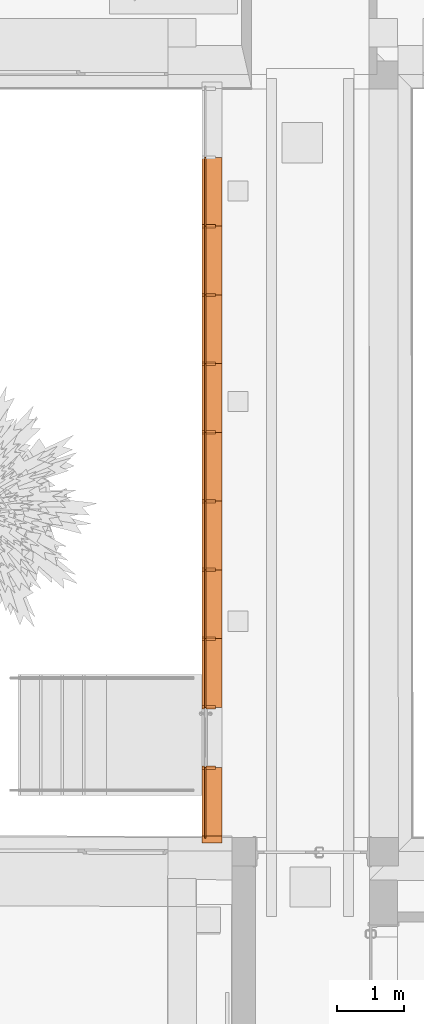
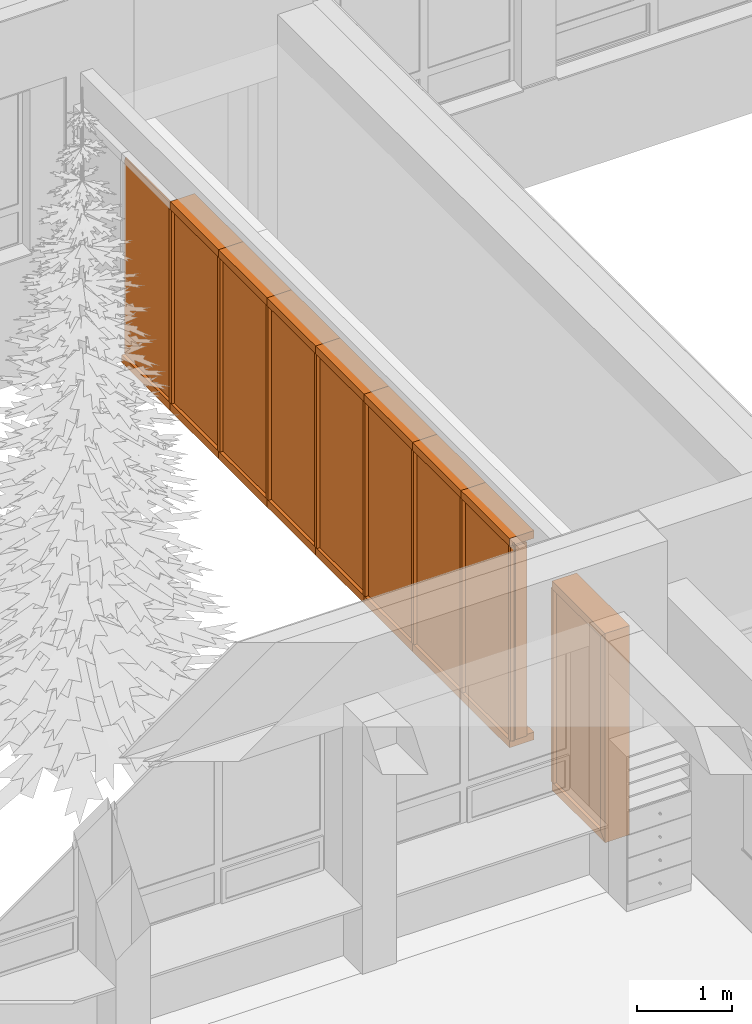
# One storey, part 187 of 194: 36 proxies, 1 element without a shape of its own.
"""IFC2X3 building model written with IfcOpenShell, lengths in millimetres."""

from ifc_helpers import new_model, entity, si_unit, converted_unit, derived_unit, money_unit, direction, frame, origin_with_axes, place, context, subcontext, project, spatial, polyline, outline, extrude, clip, halfspace, material, material_list, type_object, element, aggregate, save


model = new_model("IFC2X3")

# Units and contexts
model_context = context("Model", 3, precision=1e-05, world=origin_with_axes(), true_north=direction((0.0, 1.0)))
body_context = subcontext(model_context, "Body", "Model", "MODEL_VIEW")
ifc_project = project(units=[si_unit("LENGTHUNIT", "METRE", prefix="MILLI"), si_unit("AREAUNIT", "SQUARE_METRE"), si_unit("VOLUMEUNIT", "CUBIC_METRE"), converted_unit("PLANEANGLEUNIT", "DEGREE", entity("IfcPlaneAngleMeasure", 0.0174532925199), si_unit("PLANEANGLEUNIT", "RADIAN"), dimensions=[0, 0, 0, 0, 0, 0, 0]), si_unit("SOLIDANGLEUNIT", "STERADIAN"), money_unit("EUR"), converted_unit("TIMEUNIT", "Year", entity("IfcTimeMeasure", 31556926.0), si_unit("TIMEUNIT", "SECOND"), dimensions=[0, 0, 1, 0, 0, 0, 0]), si_unit("MASSUNIT", "GRAM", prefix="KILO"), si_unit("THERMODYNAMICTEMPERATUREUNIT", "DEGREE_CELSIUS"), si_unit("LUMINOUSINTENSITYUNIT", "LUMEN"), si_unit("ENERGYUNIT", "JOULE", prefix="MEGA"), derived_unit("THERMALCONDUCTANCEUNIT", [(si_unit("POWERUNIT", "WATT"), 1), (si_unit("LENGTHUNIT", "METRE"), -1), (si_unit("THERMODYNAMICTEMPERATUREUNIT", "KELVIN"), -1)]), derived_unit("SPECIFICHEATCAPACITYUNIT", [(si_unit("ENERGYUNIT", "JOULE"), 1), (si_unit("MASSUNIT", "GRAM", prefix="KILO"), -1), (si_unit("THERMODYNAMICTEMPERATUREUNIT", "KELVIN"), -1)]), derived_unit("MASSDENSITYUNIT", [(si_unit("MASSUNIT", "GRAM", prefix="KILO"), 1), (si_unit("VOLUMEUNIT", "CUBIC_METRE"), -1)])], contexts=[model_context])

# Site, building, storey
site_placement = place(None, origin_with_axes())
site = spatial("IfcSite", under=ifc_project, at=site_placement, Name="Site", CompositionType="ELEMENT")
building_placement = place(site_placement, origin_with_axes())
building = spatial("IfcBuilding", under=site, at=building_placement, Name="Building", CompositionType="ELEMENT")
storey_placement = place(building_placement, frame((0.0, 0.0, 3000.0), z_axis=(0.0, 0.0, 1.0), x_axis=(1.0, 0.0, 0.0)))
storey = spatial("IfcBuildingStorey", under=building, at=storey_placement, Name="2 KORRUS", CompositionType="ELEMENT", Elevation=3000.0)

# Curtain wall, proxies
curtain_wall_type = type_object("IfcCurtainWallType", Name="KS-2", PredefinedType="NOTDEFINED")
curtain_wall_placement = place(storey_placement, frame((37291.3079908, 33624.5964496, -0.000166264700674), z_axis=(0.0, 0.0, 1.0), x_axis=(1.0, 0.0, 0.0)))
curtain_wall = element("IfcCurtainWall", 1, at=curtain_wall_placement, inside=storey, type_object=curtain_wall_type, Name="KS")
ifc_material_1 = material(Name="Klaas (1)")
building_element_proxy_type_1 = type_object("IfcBuildingElementProxyType", Name="Panel-Main-403", PredefinedType="NOTDEFINED")
proxy_1_placement = place(curtain_wall_placement, frame((0.0, -8200.0, 1250.00017528), z_axis=(0.0, 0.0, 1.0), x_axis=(0.0, -1.0, 0.0)))
proxy_1 = element("IfcBuildingElementProxy", 2, at=proxy_1_placement, type_object=building_element_proxy_type_1, material=ifc_material_1, Name="Klaas (1);  Objekti nimi: Built-in CW Panel", context=body_context, shape_type="SweptSolid", body=[
    extrude(outline(polyline([(-512.500017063, -1280.00017528), (512.499994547, -1280.00017528), (512.499994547, -1250.0001807), (517.5, -1250.0001807), (517.5, 1250.0001807), (512.499994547, 1250.0001807), (512.499994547, 1280.00017528), (-512.500017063, 1280.00017528), (-512.500017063, 1250.0001807), (-517.499984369, 1250.0001807), (-517.499984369, -1250.0001807), (-512.500017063, -1250.0001807), (-512.500017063, -1280.00017528)])), frame((0.0, -9.99999999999, 0.0), z_axis=(0.0, 1.0, 0.0), x_axis=(1.0, 0.0, 0.0)), (0.0, 0.0, 1.0), 20.0),
])
building_element_proxy_type_2 = type_object("IfcBuildingElementProxyType", Name="Panel-Main-404", PredefinedType="NOTDEFINED")
proxy_2_placement = place(curtain_wall_placement, frame((0.0, -7175.0, 1250.00017528), z_axis=(0.0, 0.0, 1.0), x_axis=(0.0, -1.0, 0.0)))
proxy_2 = element("IfcBuildingElementProxy", 3, at=proxy_2_placement, type_object=building_element_proxy_type_2, material=ifc_material_1, Name="Klaas (1);  Objekti nimi: Built-in CW Panel", context=body_context, shape_type="SweptSolid", body=[
    extrude(outline(polyline([(-512.500017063, -1280.00017528), (512.499994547, -1280.00017528), (512.499994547, -1250.0001807), (517.5, -1250.0001807), (517.5, 1250.0001807), (512.499994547, 1250.0001807), (512.499994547, 1280.00017528), (-512.500017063, 1280.00017528), (-512.500017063, 1250.0001807), (-517.499984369, 1250.0001807), (-517.499984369, -1250.0001807), (-512.500017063, -1250.0001807), (-512.500017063, -1280.00017528)])), frame((0.0, -9.99999999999, 0.0), z_axis=(0.0, 1.0, 0.0), x_axis=(1.0, 0.0, 0.0)), (0.0, 0.0, 1.0), 20.0),
])
building_element_proxy_type_3 = type_object("IfcBuildingElementProxyType", Name="Panel-Main-405", PredefinedType="NOTDEFINED")
proxy_3_placement = place(curtain_wall_placement, frame((0.0, -6150.0, 1250.00017528), z_axis=(0.0, 0.0, 1.0), x_axis=(0.0, -1.0, 0.0)))
proxy_3 = element("IfcBuildingElementProxy", 4, at=proxy_3_placement, type_object=building_element_proxy_type_3, material=ifc_material_1, Name="Klaas (1);  Objekti nimi: Built-in CW Panel", context=body_context, shape_type="SweptSolid", body=[
    extrude(outline(polyline([(-512.500017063, -1280.00017528), (512.499994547, -1280.00017528), (512.499994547, -1250.0001807), (517.5, -1250.0001807), (517.5, 1250.0001807), (512.499994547, 1250.0001807), (512.499994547, 1280.00017528), (-512.500017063, 1280.00017528), (-512.500017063, 1250.0001807), (-517.499984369, 1250.0001807), (-517.499984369, -1250.0001807), (-512.500017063, -1250.0001807), (-512.500017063, -1280.00017528)])), frame((0.0, -9.99999999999, 0.0), z_axis=(0.0, 1.0, 0.0), x_axis=(1.0, 0.0, 0.0)), (0.0, 0.0, 1.0), 20.0),
])
building_element_proxy_type_4 = type_object("IfcBuildingElementProxyType", Name="Panel-Main-406", PredefinedType="NOTDEFINED")
proxy_4_placement = place(curtain_wall_placement, frame((0.0, -5125.0, 1250.00017528), z_axis=(0.0, 0.0, 1.0), x_axis=(0.0, -1.0, 0.0)))
proxy_4 = element("IfcBuildingElementProxy", 5, at=proxy_4_placement, type_object=building_element_proxy_type_4, material=ifc_material_1, Name="Klaas (1);  Objekti nimi: Built-in CW Panel", context=body_context, shape_type="SweptSolid", body=[
    extrude(outline(polyline([(-512.500017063, -1280.00017528), (512.499994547, -1280.00017528), (512.499994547, -1250.0001807), (517.5, -1250.0001807), (517.5, 1250.0001807), (512.499994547, 1250.0001807), (512.499994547, 1280.00017528), (-512.500017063, 1280.00017528), (-512.500017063, 1250.0001807), (-517.499984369, 1250.0001807), (-517.499984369, -1250.0001807), (-512.500017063, -1250.0001807), (-512.500017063, -1280.00017528)])), frame((0.0, -9.99999999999, 0.0), z_axis=(0.0, 1.0, 0.0), x_axis=(1.0, 0.0, 0.0)), (0.0, 0.0, 1.0), 20.0),
])
building_element_proxy_type_5 = type_object("IfcBuildingElementProxyType", Name="Panel-Main-407", PredefinedType="NOTDEFINED")
proxy_5_placement = place(curtain_wall_placement, frame((0.0, -4100.0, 1250.00017528), z_axis=(0.0, 0.0, 1.0), x_axis=(0.0, -1.0, 0.0)))
proxy_5 = element("IfcBuildingElementProxy", 6, at=proxy_5_placement, type_object=building_element_proxy_type_5, material=ifc_material_1, Name="Klaas (1);  Objekti nimi: Built-in CW Panel", context=body_context, shape_type="SweptSolid", body=[
    extrude(outline(polyline([(-512.500017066, -1280.00017528), (512.499994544, -1280.00017528), (512.499994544, -1250.0001807), (517.499999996, -1250.0001807), (517.499999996, 1250.0001807), (512.499994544, 1250.0001807), (512.499994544, 1280.00017528), (-512.500017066, 1280.00017528), (-512.500017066, 1250.0001807), (-517.499984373, 1250.0001807), (-517.499984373, -1250.0001807), (-512.500017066, -1250.0001807), (-512.500017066, -1280.00017528)])), frame((0.0, -9.99999999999, 0.0), z_axis=(0.0, 1.0, 0.0), x_axis=(1.0, 0.0, 0.0)), (0.0, 0.0, 1.0), 20.0),
])
building_element_proxy_type_6 = type_object("IfcBuildingElementProxyType", Name="Panel-Main-408", PredefinedType="NOTDEFINED")
proxy_6_placement = place(curtain_wall_placement, frame((0.0, -3075.0, 1250.00017528), z_axis=(0.0, 0.0, 1.0), x_axis=(0.0, -1.0, 0.0)))
proxy_6 = element("IfcBuildingElementProxy", 7, at=proxy_6_placement, type_object=building_element_proxy_type_6, material=ifc_material_1, Name="Klaas (1);  Objekti nimi: Built-in CW Panel", context=body_context, shape_type="SweptSolid", body=[
    extrude(outline(polyline([(-512.500017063, -1280.00017528), (512.499994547, -1280.00017528), (512.499994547, -1250.0001807), (517.5, -1250.0001807), (517.5, 1250.0001807), (512.499994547, 1250.0001807), (512.499994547, 1280.00017528), (-512.500017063, 1280.00017528), (-512.500017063, 1250.0001807), (-517.499984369, 1250.0001807), (-517.499984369, -1250.0001807), (-512.500017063, -1250.0001807), (-512.500017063, -1280.00017528)])), frame((0.0, -9.99999999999, 0.0), z_axis=(0.0, 1.0, 0.0), x_axis=(1.0, 0.0, 0.0)), (0.0, 0.0, 1.0), 20.0),
])
building_element_proxy_type_7 = type_object("IfcBuildingElementProxyType", Name="Panel-Main-409", PredefinedType="NOTDEFINED")
proxy_7_placement = place(curtain_wall_placement, frame((0.0, -2050.0, 1250.00017528), z_axis=(0.0, 0.0, 1.0), x_axis=(0.0, -1.0, 0.0)))
proxy_7 = element("IfcBuildingElementProxy", 8, at=proxy_7_placement, type_object=building_element_proxy_type_7, material=ifc_material_1, Name="Klaas (1);  Objekti nimi: Built-in CW Panel", context=body_context, shape_type="SweptSolid", body=[
    extrude(outline(polyline([(-512.500017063, -1280.00017528), (512.499994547, -1280.00017528), (512.499994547, -1250.0001807), (517.5, -1250.0001807), (517.5, 1250.0001807), (512.499994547, 1250.0001807), (512.499994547, 1280.00017528), (-512.500017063, 1280.00017528), (-512.500017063, 1250.0001807), (-517.499984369, 1250.0001807), (-517.499984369, -1250.0001807), (-512.500017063, -1250.0001807), (-512.500017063, -1280.00017528)])), frame((0.0, -9.99999999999, 0.0), z_axis=(0.0, 1.0, 0.0), x_axis=(1.0, 0.0, 0.0)), (0.0, 0.0, 1.0), 20.0),
])
building_element_proxy_type_8 = type_object("IfcBuildingElementProxyType", Name="Panel-Main-410", PredefinedType="NOTDEFINED")
proxy_8_placement = place(curtain_wall_placement, frame((0.0, -1025.0, 1250.00017528), z_axis=(0.0, 0.0, 1.0), x_axis=(0.0, -1.0, 0.0)))
proxy_8 = element("IfcBuildingElementProxy", 9, at=proxy_8_placement, type_object=building_element_proxy_type_8, material=ifc_material_1, Name="Klaas (1);  Objekti nimi: Built-in CW Panel", context=body_context, shape_type="SweptSolid", body=[
    extrude(outline(polyline([(-512.500017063, -1280.00017528), (512.499994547, -1280.00017528), (512.499994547, -1250.0001807), (517.5, -1250.0001807), (517.5, 1250.0001807), (512.499994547, 1250.0001807), (512.499994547, 1280.00017528), (-512.500017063, 1280.00017528), (-512.500017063, 1250.0001807), (-517.499984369, 1250.0001807), (-517.499984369, -1250.0001807), (-512.500017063, -1250.0001807), (-512.500017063, -1280.00017528)])), frame((0.0, -9.99999999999, 0.0), z_axis=(0.0, 1.0, 0.0), x_axis=(1.0, 0.0, 0.0)), (0.0, 0.0, 1.0), 20.0),
])
building_element_proxy_type_9 = type_object("IfcBuildingElementProxyType", Name="Panel-Main-411", PredefinedType="NOTDEFINED")
proxy_9_placement = place(curtain_wall_placement, frame((0.0, -10122.9794885, 1250.00017528), z_axis=(0.0, 0.0, 1.0), x_axis=(0.0, -1.0, 0.0)))
proxy_9 = element("IfcBuildingElementProxy", 10, at=proxy_9_placement, type_object=building_element_proxy_type_9, material=ifc_material_1, Name="Klaas (1);  Objekti nimi: Built-in CW Panel", context=body_context, shape_type="SweptSolid", body=[
    extrude(outline(polyline([(-510.479451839, -1280.00017528), (510.479493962, -1280.00017528), (510.479493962, -1250.0001807), (540.479488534, -1250.0001807), (540.479488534, 1250.0001807), (510.479493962, 1250.0001807), (510.479493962, 1280.00017528), (-510.479489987, 1280.00017528), (-510.479451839, 1250.0001807), (-515.479457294, 1250.0001807), (-515.479457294, -1250.0001807), (-510.479451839, -1250.0001807), (-510.479451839, -1280.00017528)])), frame((0.0, -9.99999999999, 0.0), z_axis=(0.0, 1.0, 0.0), x_axis=(1.0, 0.0, 0.0)), (0.0, 0.0, 1.0), 20.0),
])
ifc_material_2 = material(Name="Alumiinium (1)")
ifc_material_list = material_list([ifc_material_2, ifc_material_2])
building_element_proxy_type_10 = type_object("IfcBuildingElementProxyType", Name="Frame-Mll-588", PredefinedType="NOTDEFINED")
proxy_10_placement = place(curtain_wall_placement, frame((0.0, -9612.5, 0.0), z_axis=(0.0, 0.0, 1.0), x_axis=(0.0, -1.0, 0.0)))
proxy_10 = element("IfcBuildingElementProxy", 11, at=proxy_10_placement, type_object=building_element_proxy_type_10, material=ifc_material_list, Name="Alumiinium (1);  Objekti nimi: Frame 22", context=body_context, shape_type="SweptSolid", body=[
    extrude(outline(polyline([(9.99999999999, -24.9999999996), (150.0, -24.9999999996), (150.0, 24.9999999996), (9.99999999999, 24.9999999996), (9.99999999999, -24.9999999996)])), frame((0.0, 0.0, 0.0), z_axis=(0.0, 0.0, 1.0), x_axis=(0.0, 1.0, 0.0)), (0.0, 0.0, 1.0), 2500.00035055),
    extrude(outline(polyline([(-9.99999999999, 24.9999999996), (-50.0, 24.9999999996), (-50.0, -24.9999999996), (-9.99999999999, -24.9999999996), (-9.99999999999, 24.9999999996)])), frame((0.0, 0.0, 0.0), z_axis=(0.0, 0.0, 1.0), x_axis=(0.0, 1.0, 0.0)), (0.0, 0.0, 1.0), 2500.00035055),
])
proxy_11_placement = place(curtain_wall_placement, frame((0.0, -8712.50000001, 0.0), z_axis=(0.0, 0.0, 1.0), x_axis=(0.0, -1.0, 0.0)))
proxy_11 = element("IfcBuildingElementProxy", 12, at=proxy_11_placement, type_object=building_element_proxy_type_10, material=ifc_material_list, Name="Alumiinium (1);  Objekti nimi: Frame 22", context=body_context, shape_type="SweptSolid", body=[
    extrude(outline(polyline([(9.99999999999, -24.9999999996), (150.0, -24.9999999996), (150.0, 24.9999999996), (9.99999999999, 24.9999999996), (9.99999999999, -24.9999999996)])), frame((0.0, 0.0, 0.0), z_axis=(0.0, 0.0, 1.0), x_axis=(0.0, 1.0, 0.0)), (0.0, 0.0, 1.0), 2500.00035055),
    extrude(outline(polyline([(-9.99999999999, 24.9999999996), (-50.0, 24.9999999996), (-50.0, -24.9999999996), (-9.99999999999, -24.9999999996), (-9.99999999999, 24.9999999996)])), frame((0.0, 0.0, 0.0), z_axis=(0.0, 0.0, 1.0), x_axis=(0.0, 1.0, 0.0)), (0.0, 0.0, 1.0), 2500.00035055),
])
proxy_12_placement = place(curtain_wall_placement, frame((0.0, -7687.5, 0.0), z_axis=(0.0, 0.0, 1.0), x_axis=(0.0, -1.0, 0.0)))
proxy_12 = element("IfcBuildingElementProxy", 13, at=proxy_12_placement, type_object=building_element_proxy_type_10, material=ifc_material_list, Name="Alumiinium (1);  Objekti nimi: Frame 22", context=body_context, shape_type="SweptSolid", body=[
    extrude(outline(polyline([(9.99999999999, -24.9999999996), (150.0, -24.9999999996), (150.0, 24.9999999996), (9.99999999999, 24.9999999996), (9.99999999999, -24.9999999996)])), frame((0.0, 0.0, 0.0), z_axis=(0.0, 0.0, 1.0), x_axis=(0.0, 1.0, 0.0)), (0.0, 0.0, 1.0), 2500.00035055),
    extrude(outline(polyline([(-9.99999999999, 24.9999999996), (-50.0, 24.9999999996), (-50.0, -24.9999999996), (-9.99999999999, -24.9999999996), (-9.99999999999, 24.9999999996)])), frame((0.0, 0.0, 0.0), z_axis=(0.0, 0.0, 1.0), x_axis=(0.0, 1.0, 0.0)), (0.0, 0.0, 1.0), 2500.00035055),
])
proxy_13_placement = place(curtain_wall_placement, frame((0.0, -6662.5, 0.0), z_axis=(0.0, 0.0, 1.0), x_axis=(0.0, -1.0, 0.0)))
proxy_13 = element("IfcBuildingElementProxy", 14, at=proxy_13_placement, type_object=building_element_proxy_type_10, material=ifc_material_list, Name="Alumiinium (1);  Objekti nimi: Frame 22", context=body_context, shape_type="SweptSolid", body=[
    extrude(outline(polyline([(9.99999999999, -24.9999999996), (150.0, -24.9999999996), (150.0, 24.9999999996), (9.99999999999, 24.9999999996), (9.99999999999, -24.9999999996)])), frame((0.0, 0.0, 0.0), z_axis=(0.0, 0.0, 1.0), x_axis=(0.0, 1.0, 0.0)), (0.0, 0.0, 1.0), 2500.00035055),
    extrude(outline(polyline([(-9.99999999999, 24.9999999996), (-50.0, 24.9999999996), (-50.0, -24.9999999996), (-9.99999999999, -24.9999999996), (-9.99999999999, 24.9999999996)])), frame((0.0, 0.0, 0.0), z_axis=(0.0, 0.0, 1.0), x_axis=(0.0, 1.0, 0.0)), (0.0, 0.0, 1.0), 2500.00035055),
])
proxy_14_placement = place(curtain_wall_placement, frame((0.0, -5637.5, 0.0), z_axis=(0.0, 0.0, 1.0), x_axis=(0.0, -1.0, 0.0)))
proxy_14 = element("IfcBuildingElementProxy", 15, at=proxy_14_placement, type_object=building_element_proxy_type_10, material=ifc_material_list, Name="Alumiinium (1);  Objekti nimi: Frame 22", context=body_context, shape_type="SweptSolid", body=[
    extrude(outline(polyline([(9.99999999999, -24.9999999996), (150.0, -24.9999999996), (150.0, 24.9999999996), (9.99999999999, 24.9999999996), (9.99999999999, -24.9999999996)])), frame((0.0, 0.0, 0.0), z_axis=(0.0, 0.0, 1.0), x_axis=(0.0, 1.0, 0.0)), (0.0, 0.0, 1.0), 2500.00035055),
    extrude(outline(polyline([(-9.99999999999, 24.9999999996), (-50.0, 24.9999999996), (-50.0, -24.9999999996), (-9.99999999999, -24.9999999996), (-9.99999999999, 24.9999999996)])), frame((0.0, 0.0, 0.0), z_axis=(0.0, 0.0, 1.0), x_axis=(0.0, 1.0, 0.0)), (0.0, 0.0, 1.0), 2500.00035055),
])
proxy_15_placement = place(curtain_wall_placement, frame((0.0, -4612.5, 0.0), z_axis=(0.0, 0.0, 1.0), x_axis=(0.0, -1.0, 0.0)))
proxy_15 = element("IfcBuildingElementProxy", 16, at=proxy_15_placement, type_object=building_element_proxy_type_10, material=ifc_material_list, Name="Alumiinium (1);  Objekti nimi: Frame 22", context=body_context, shape_type="SweptSolid", body=[
    extrude(outline(polyline([(9.99999999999, -24.9999999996), (150.0, -24.9999999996), (150.0, 24.9999999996), (9.99999999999, 24.9999999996), (9.99999999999, -24.9999999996)])), frame((0.0, 0.0, 0.0), z_axis=(0.0, 0.0, 1.0), x_axis=(0.0, 1.0, 0.0)), (0.0, 0.0, 1.0), 2500.00035055),
    extrude(outline(polyline([(-9.99999999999, 24.9999999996), (-50.0, 24.9999999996), (-50.0, -24.9999999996), (-9.99999999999, -24.9999999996), (-9.99999999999, 24.9999999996)])), frame((0.0, 0.0, 0.0), z_axis=(0.0, 0.0, 1.0), x_axis=(0.0, 1.0, 0.0)), (0.0, 0.0, 1.0), 2500.00035055),
])
proxy_16_placement = place(curtain_wall_placement, frame((0.0, -3587.50000001, 0.0), z_axis=(0.0, 0.0, 1.0), x_axis=(0.0, -1.0, 0.0)))
proxy_16 = element("IfcBuildingElementProxy", 17, at=proxy_16_placement, type_object=building_element_proxy_type_10, material=ifc_material_list, Name="Alumiinium (1);  Objekti nimi: Frame 22", context=body_context, shape_type="SweptSolid", body=[
    extrude(outline(polyline([(9.99999999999, -24.9999999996), (150.0, -24.9999999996), (150.0, 24.9999999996), (9.99999999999, 24.9999999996), (9.99999999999, -24.9999999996)])), frame((0.0, 0.0, 0.0), z_axis=(0.0, 0.0, 1.0), x_axis=(0.0, 1.0, 0.0)), (0.0, 0.0, 1.0), 2500.00035055),
    extrude(outline(polyline([(-9.99999999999, 24.9999999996), (-50.0, 24.9999999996), (-50.0, -24.9999999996), (-9.99999999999, -24.9999999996), (-9.99999999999, 24.9999999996)])), frame((0.0, 0.0, 0.0), z_axis=(0.0, 0.0, 1.0), x_axis=(0.0, 1.0, 0.0)), (0.0, 0.0, 1.0), 2500.00035055),
])
proxy_17_placement = place(curtain_wall_placement, frame((0.0, -2562.5, 0.0), z_axis=(0.0, 0.0, 1.0), x_axis=(0.0, -1.0, 0.0)))
proxy_17 = element("IfcBuildingElementProxy", 18, at=proxy_17_placement, type_object=building_element_proxy_type_10, material=ifc_material_list, Name="Alumiinium (1);  Objekti nimi: Frame 22", context=body_context, shape_type="SweptSolid", body=[
    extrude(outline(polyline([(9.99999999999, -24.9999999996), (150.0, -24.9999999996), (150.0, 24.9999999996), (9.99999999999, 24.9999999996), (9.99999999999, -24.9999999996)])), frame((0.0, 0.0, 0.0), z_axis=(0.0, 0.0, 1.0), x_axis=(0.0, 1.0, 0.0)), (0.0, 0.0, 1.0), 2500.00035055),
    extrude(outline(polyline([(-9.99999999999, 24.9999999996), (-50.0, 24.9999999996), (-50.0, -24.9999999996), (-9.99999999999, -24.9999999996), (-9.99999999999, 24.9999999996)])), frame((0.0, 0.0, 0.0), z_axis=(0.0, 0.0, 1.0), x_axis=(0.0, 1.0, 0.0)), (0.0, 0.0, 1.0), 2500.00035055),
])
proxy_18_placement = place(curtain_wall_placement, frame((0.0, -1537.5, 0.0), z_axis=(0.0, 0.0, 1.0), x_axis=(0.0, -1.0, 0.0)))
proxy_18 = element("IfcBuildingElementProxy", 19, at=proxy_18_placement, type_object=building_element_proxy_type_10, material=ifc_material_list, Name="Alumiinium (1);  Objekti nimi: Frame 22", context=body_context, shape_type="SweptSolid", body=[
    extrude(outline(polyline([(9.99999999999, -24.9999999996), (150.0, -24.9999999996), (150.0, 24.9999999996), (9.99999999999, 24.9999999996), (9.99999999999, -24.9999999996)])), frame((0.0, 0.0, 0.0), z_axis=(0.0, 0.0, 1.0), x_axis=(0.0, 1.0, 0.0)), (0.0, 0.0, 1.0), 2500.00035055),
    extrude(outline(polyline([(-9.99999999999, 24.9999999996), (-50.0, 24.9999999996), (-50.0, -24.9999999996), (-9.99999999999, -24.9999999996), (-9.99999999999, 24.9999999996)])), frame((0.0, 0.0, 0.0), z_axis=(0.0, 0.0, 1.0), x_axis=(0.0, 1.0, 0.0)), (0.0, 0.0, 1.0), 2500.00035055),
])
building_element_proxy_type_11 = type_object("IfcBuildingElementProxyType", Name="Frame-Bnd-310", PredefinedType="NOTDEFINED")
proxy_19_placement = place(curtain_wall_placement, frame((0.0, -8712.50000001, 0.0), z_axis=(0.0, 1.0, 0.0), x_axis=(0.0, 0.0, 1.0)))
proxy_19 = element("IfcBuildingElementProxy", 20, at=proxy_19_placement, type_object=building_element_proxy_type_11, material=ifc_material_2, Name="Alumiinium (1);  Objekti nimi: Built-in Frame", context=body_context, shape_type="SweptSolid", body=[
    extrude(outline(polyline([(9.99999999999, 30.0), (9.99999999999, 0.0), (250.0, 0.0), (250.0, 100.0), (-50.0, 100.0), (-50.0, 0.0), (-9.99999999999, 0.0), (-9.99999999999, 30.0), (9.99999999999, 30.0)])), frame((0.0, 0.0, 0.0), z_axis=(0.0, 0.0, 1.0), x_axis=(0.0, 1.0, 0.0)), (0.0, 0.0, 1.0), 1025.0),
])
building_element_proxy_type_12 = type_object("IfcBuildingElementProxyType", Name="Frame-Bnd-311", PredefinedType="NOTDEFINED")
proxy_20_placement = place(curtain_wall_placement, frame((0.0, -7687.5, 0.0), z_axis=(0.0, 1.0, 0.0), x_axis=(0.0, 0.0, 1.0)))
proxy_20 = element("IfcBuildingElementProxy", 21, at=proxy_20_placement, type_object=building_element_proxy_type_12, material=ifc_material_2, Name="Alumiinium (1);  Objekti nimi: Built-in Frame", context=body_context, shape_type="SweptSolid", body=[
    extrude(outline(polyline([(9.99999999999, 30.0), (9.99999999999, 0.0), (250.0, 0.0), (250.0, 100.0), (-50.0, 100.0), (-50.0, 0.0), (-9.99999999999, 0.0), (-9.99999999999, 30.0), (9.99999999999, 30.0)])), frame((0.0, 0.0, 0.0), z_axis=(0.0, 0.0, 1.0), x_axis=(0.0, 1.0, 0.0)), (0.0, 0.0, 1.0), 1025.0),
])
building_element_proxy_type_13 = type_object("IfcBuildingElementProxyType", Name="Frame-Bnd-312", PredefinedType="NOTDEFINED")
proxy_21_placement = place(curtain_wall_placement, frame((0.0, -6662.5, 0.0), z_axis=(0.0, 1.0, 0.0), x_axis=(0.0, 0.0, 1.0)))
proxy_21 = element("IfcBuildingElementProxy", 22, at=proxy_21_placement, type_object=building_element_proxy_type_13, material=ifc_material_2, Name="Alumiinium (1);  Objekti nimi: Built-in Frame", context=body_context, shape_type="SweptSolid", body=[
    extrude(outline(polyline([(9.99999999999, 30.0), (9.99999999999, 0.0), (250.0, 0.0), (250.0, 100.0), (-50.0, 100.0), (-50.0, 0.0), (-9.99999999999, 0.0), (-9.99999999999, 30.0), (9.99999999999, 30.0)])), frame((0.0, 0.0, 0.0), z_axis=(0.0, 0.0, 1.0), x_axis=(0.0, 1.0, 0.0)), (0.0, 0.0, 1.0), 1025.0),
])
building_element_proxy_type_14 = type_object("IfcBuildingElementProxyType", Name="Frame-Bnd-313", PredefinedType="NOTDEFINED")
proxy_22_placement = place(curtain_wall_placement, frame((0.0, -5637.5, 0.0), z_axis=(0.0, 1.0, 0.0), x_axis=(0.0, 0.0, 1.0)))
proxy_22 = element("IfcBuildingElementProxy", 23, at=proxy_22_placement, type_object=building_element_proxy_type_14, material=ifc_material_2, Name="Alumiinium (1);  Objekti nimi: Built-in Frame", context=body_context, shape_type="SweptSolid", body=[
    extrude(outline(polyline([(9.99999999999, 30.0), (9.99999999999, 0.0), (250.0, 0.0), (250.0, 100.0), (-50.0, 100.0), (-50.0, 0.0), (-9.99999999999, 0.0), (-9.99999999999, 30.0), (9.99999999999, 30.0)])), frame((0.0, 0.0, 0.0), z_axis=(0.0, 0.0, 1.0), x_axis=(0.0, 1.0, 0.0)), (0.0, 0.0, 1.0), 1025.0),
])
building_element_proxy_type_15 = type_object("IfcBuildingElementProxyType", Name="Frame-Bnd-314", PredefinedType="NOTDEFINED")
proxy_23_placement = place(curtain_wall_placement, frame((0.0, -4612.5, 0.0), z_axis=(0.0, 1.0, 0.0), x_axis=(0.0, 0.0, 1.0)))
proxy_23 = element("IfcBuildingElementProxy", 24, at=proxy_23_placement, type_object=building_element_proxy_type_15, material=ifc_material_2, Name="Alumiinium (1);  Objekti nimi: Built-in Frame", context=body_context, shape_type="SweptSolid", body=[
    extrude(outline(polyline([(9.99999999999, 30.0), (9.99999999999, 0.0), (250.0, 0.0), (250.0, 100.0), (-50.0, 100.0), (-50.0, 0.0), (-9.99999999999, 0.0), (-9.99999999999, 30.0), (9.99999999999, 30.0)])), frame((0.0, 0.0, 0.0), z_axis=(0.0, 0.0, 1.0), x_axis=(0.0, 1.0, 0.0)), (0.0, 0.0, 1.0), 1025.0),
])
building_element_proxy_type_16 = type_object("IfcBuildingElementProxyType", Name="Frame-Bnd-315", PredefinedType="NOTDEFINED")
proxy_24_placement = place(curtain_wall_placement, frame((0.0, -3587.50000001, 0.0), z_axis=(0.0, 1.0, 0.0), x_axis=(0.0, 0.0, 1.0)))
proxy_24 = element("IfcBuildingElementProxy", 25, at=proxy_24_placement, type_object=building_element_proxy_type_16, material=ifc_material_2, Name="Alumiinium (1);  Objekti nimi: Built-in Frame", context=body_context, shape_type="SweptSolid", body=[
    extrude(outline(polyline([(9.99999999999, 30.0), (9.99999999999, 0.0), (250.0, 0.0), (250.0, 100.0), (-50.0, 100.0), (-50.0, 0.0), (-9.99999999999, 0.0), (-9.99999999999, 30.0), (9.99999999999, 30.0)])), frame((0.0, 0.0, 0.0), z_axis=(0.0, 0.0, 1.0), x_axis=(0.0, 1.0, 0.0)), (0.0, 0.0, 1.0), 1025.0),
])
building_element_proxy_type_17 = type_object("IfcBuildingElementProxyType", Name="Frame-Bnd-316", PredefinedType="NOTDEFINED")
proxy_25_placement = place(curtain_wall_placement, frame((0.0, -2562.5, 0.0), z_axis=(0.0, 1.0, 0.0), x_axis=(0.0, 0.0, 1.0)))
proxy_25 = element("IfcBuildingElementProxy", 26, at=proxy_25_placement, type_object=building_element_proxy_type_17, material=ifc_material_2, Name="Alumiinium (1);  Objekti nimi: Built-in Frame", context=body_context, shape_type="SweptSolid", body=[
    extrude(outline(polyline([(9.99999999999, 30.0), (9.99999999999, 0.0), (250.0, 0.0), (250.0, 100.0), (-50.0, 100.0), (-50.0, 0.0), (-9.99999999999, 0.0), (-9.99999999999, 30.0), (9.99999999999, 30.0)])), frame((0.0, 0.0, 0.0), z_axis=(0.0, 0.0, 1.0), x_axis=(0.0, 1.0, 0.0)), (0.0, 0.0, 1.0), 1025.0),
])
building_element_proxy_type_18 = type_object("IfcBuildingElementProxyType", Name="Frame-Bnd-317", PredefinedType="NOTDEFINED")
proxy_26_placement = place(curtain_wall_placement, frame((0.0, -1537.5, 0.0), z_axis=(0.0, 1.0, 0.0), x_axis=(0.0, 0.0, 1.0)))
proxy_26 = element("IfcBuildingElementProxy", 27, at=proxy_26_placement, type_object=building_element_proxy_type_18, material=ifc_material_2, Name="Alumiinium (1);  Objekti nimi: Built-in Frame", context=body_context, shape_type="SweptSolid", body=[
    extrude(outline(polyline([(9.99999999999, 30.0), (9.99999999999, 0.0), (250.0, 0.0), (250.0, 100.0), (-50.0, 100.0), (-50.0, 0.0), (-9.99999999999, 0.0), (-9.99999999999, 30.0), (9.99999999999, 30.0)])), frame((0.0, 0.0, 0.0), z_axis=(0.0, 0.0, 1.0), x_axis=(0.0, 1.0, 0.0)), (0.0, 0.0, 1.0), 1025.0),
])
building_element_proxy_type_19 = type_object("IfcBuildingElementProxyType", Name="Frame-Bnd-306", PredefinedType="NOTDEFINED")
proxy_27_placement = place(curtain_wall_placement, frame((0.0, -10633.4589771, 2500.00035055), z_axis=(0.0, 1.0, 0.0), x_axis=(0.0, 0.0, 1.0)))
proxy_27 = element("IfcBuildingElementProxy", 28, at=proxy_27_placement, type_object=building_element_proxy_type_19, material=ifc_material_2, Name="Alumiinium (1);  Objekti nimi: Built-in Frame", context=body_context, shape_type="Clipping", body=[
    clip(extrude(outline(polyline([(9.99999999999, -30.0), (-9.99999999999, -30.0), (-9.99999999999, 0.0), (-50.0, 0.0), (-50.0, -100.0), (250.0, -100.0), (250.0, 0.0), (9.99999999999, 0.0), (9.99999999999, -30.0)])), frame((0.0, 0.0, -100.0), z_axis=(0.0, 0.0, 1.0), x_axis=(0.0, 1.0, 0.0)), (0.0, 0.0, 1.0), 1120.95897707), halfspace(frame((1.85793456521e-10, 0.0, 1.85793456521e-10), z_axis=(0.707106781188, 0.0, 0.707106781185), x_axis=(0.0, -1.0, 0.0)), True)),
])
building_element_proxy_type_20 = type_object("IfcBuildingElementProxyType", Name="Frame-Bnd-325", PredefinedType="NOTDEFINED")
proxy_28_placement = place(curtain_wall_placement, frame((0.0, -3587.50000001, 2500.00035055), z_axis=(0.0, 1.0, 0.0), x_axis=(0.0, 0.0, 1.0)))
proxy_28 = element("IfcBuildingElementProxy", 29, at=proxy_28_placement, type_object=building_element_proxy_type_20, material=ifc_material_2, Name="Alumiinium (1);  Objekti nimi: Built-in Frame", context=body_context, shape_type="SweptSolid", body=[
    extrude(outline(polyline([(9.99999999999, -30.0), (-9.99999999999, -30.0), (-9.99999999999, 0.0), (-50.0, 0.0), (-50.0, -100.0), (250.0, -100.0), (250.0, 0.0), (9.99999999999, 0.0), (9.99999999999, -30.0)])), frame((0.0, 0.0, 0.0), z_axis=(0.0, 0.0, 1.0), x_axis=(0.0, 1.0, 0.0)), (0.0, 0.0, 1.0), 1025.0),
])
building_element_proxy_type_21 = type_object("IfcBuildingElementProxyType", Name="Frame-Bnd-308", PredefinedType="NOTDEFINED")
proxy_29_placement = place(curtain_wall_placement, frame((0.0, -10633.4589771, 0.0), z_axis=(0.0, 1.0, 0.0), x_axis=(0.0, 0.0, 1.0)))
proxy_29 = element("IfcBuildingElementProxy", 30, at=proxy_29_placement, type_object=building_element_proxy_type_21, material=ifc_material_2, Name="Alumiinium (1);  Objekti nimi: Built-in Frame", context=body_context, shape_type="Clipping", body=[
    clip(extrude(outline(polyline([(9.99999999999, 30.0), (9.99999999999, 0.0), (250.0, 0.0), (250.0, 100.0), (-50.0, 100.0), (-50.0, 0.0), (-9.99999999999, 0.0), (-9.99999999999, 30.0), (9.99999999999, 30.0)])), frame((0.0, 0.0, -100.0), z_axis=(0.0, 0.0, 1.0), x_axis=(0.0, 1.0, 0.0)), (0.0, 0.0, 1.0), 1120.95897707), halfspace(frame((-1.85496610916e-10, 0.0, 1.85496610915e-10), z_axis=(-0.707106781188, 0.0, 0.707106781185), x_axis=(0.0, -1.0, 0.0)), True)),
])
building_element_proxy_type_22 = type_object("IfcBuildingElementProxyType", Name="Frame-Bnd-327", PredefinedType="NOTDEFINED")
proxy_30_placement = place(curtain_wall_placement, frame((0.0, -5637.5, 2500.00035055), z_axis=(0.0, 1.0, 0.0), x_axis=(0.0, 0.0, 1.0)))
proxy_30 = element("IfcBuildingElementProxy", 31, at=proxy_30_placement, type_object=building_element_proxy_type_22, material=ifc_material_2, Name="Alumiinium (1);  Objekti nimi: Built-in Frame", context=body_context, shape_type="SweptSolid", body=[
    extrude(outline(polyline([(9.99999999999, -30.0), (-9.99999999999, -30.0), (-9.99999999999, 0.0), (-50.0, 0.0), (-50.0, -100.0), (250.0, -100.0), (250.0, 0.0), (9.99999999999, 0.0), (9.99999999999, -30.0)])), frame((0.0, 0.0, 0.0), z_axis=(0.0, 0.0, 1.0), x_axis=(0.0, 1.0, 0.0)), (0.0, 0.0, 1.0), 1025.0),
])
building_element_proxy_type_23 = type_object("IfcBuildingElementProxyType", Name="Frame-Bnd-330", PredefinedType="NOTDEFINED")
proxy_31_placement = place(curtain_wall_placement, frame((0.0, -8712.50000001, 2500.00035055), z_axis=(0.0, 1.0, 0.0), x_axis=(0.0, 0.0, 1.0)))
proxy_31 = element("IfcBuildingElementProxy", 32, at=proxy_31_placement, type_object=building_element_proxy_type_23, material=ifc_material_2, Name="Alumiinium (1);  Objekti nimi: Built-in Frame", context=body_context, shape_type="SweptSolid", body=[
    extrude(outline(polyline([(9.99999999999, -30.0), (-9.99999999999, -30.0), (-9.99999999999, 0.0), (-50.0, 0.0), (-50.0, -100.0), (250.0, -100.0), (250.0, 0.0), (9.99999999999, 0.0), (9.99999999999, -30.0)])), frame((0.0, 0.0, 0.0), z_axis=(0.0, 0.0, 1.0), x_axis=(0.0, 1.0, 0.0)), (0.0, 0.0, 1.0), 1025.0),
])
building_element_proxy_type_24 = type_object("IfcBuildingElementProxyType", Name="Frame-Bnd-329", PredefinedType="NOTDEFINED")
proxy_32_placement = place(curtain_wall_placement, frame((0.0, -7687.5, 2500.00035055), z_axis=(0.0, 1.0, 0.0), x_axis=(0.0, 0.0, 1.0)))
proxy_32 = element("IfcBuildingElementProxy", 33, at=proxy_32_placement, type_object=building_element_proxy_type_24, material=ifc_material_2, Name="Alumiinium (1);  Objekti nimi: Built-in Frame", context=body_context, shape_type="SweptSolid", body=[
    extrude(outline(polyline([(9.99999999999, -30.0), (-9.99999999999, -30.0), (-9.99999999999, 0.0), (-50.0, 0.0), (-50.0, -100.0), (250.0, -100.0), (250.0, 0.0), (9.99999999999, 0.0), (9.99999999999, -30.0)])), frame((0.0, 0.0, 0.0), z_axis=(0.0, 0.0, 1.0), x_axis=(0.0, 1.0, 0.0)), (0.0, 0.0, 1.0), 1025.0),
])
building_element_proxy_type_25 = type_object("IfcBuildingElementProxyType", Name="Frame-Bnd-324", PredefinedType="NOTDEFINED")
proxy_33_placement = place(curtain_wall_placement, frame((0.0, -2562.5, 2500.00035055), z_axis=(0.0, 1.0, 0.0), x_axis=(0.0, 0.0, 1.0)))
proxy_33 = element("IfcBuildingElementProxy", 34, at=proxy_33_placement, type_object=building_element_proxy_type_25, material=ifc_material_2, Name="Alumiinium (1);  Objekti nimi: Built-in Frame", context=body_context, shape_type="SweptSolid", body=[
    extrude(outline(polyline([(9.99999999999, -30.0), (-9.99999999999, -30.0), (-9.99999999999, 0.0), (-50.0, 0.0), (-50.0, -100.0), (250.0, -100.0), (250.0, 0.0), (9.99999999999, 0.0), (9.99999999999, -30.0)])), frame((0.0, 0.0, 0.0), z_axis=(0.0, 0.0, 1.0), x_axis=(0.0, 1.0, 0.0)), (0.0, 0.0, 1.0), 1025.0),
])
building_element_proxy_type_26 = type_object("IfcBuildingElementProxyType", Name="Frame-Bnd-307", PredefinedType="NOTDEFINED")
proxy_34_placement = place(curtain_wall_placement, frame((0.0, -10633.4589771, 2500.00035055), z_axis=(0.0, 0.0, -1.0), x_axis=(0.0, 1.0, 0.0)))
proxy_34 = element("IfcBuildingElementProxy", 35, at=proxy_34_placement, type_object=building_element_proxy_type_26, material=ifc_material_2, Name="Alumiinium (1);  Objekti nimi: Built-in Frame", context=body_context, shape_type="Clipping", body=[
    clip(clip(extrude(outline(polyline([(9.99999999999, 29.9999999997), (9.99999999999, 0.0), (250.0, 0.0), (250.0, 100.0), (-50.0, 100.0), (-50.0, 0.0), (-9.99999999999, 0.0), (-9.99999999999, 29.9999999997), (9.99999999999, 29.9999999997)])), frame((0.0, 0.0, -100.0), z_axis=(0.0, 0.0, 1.0), x_axis=(0.0, 1.0, 0.0)), (0.0, 0.0, 1.0), 2700.00035055), halfspace(frame((1250.00017528, 0.0, 1250.00017528), z_axis=(-0.707106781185, 0.0, -0.707106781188), x_axis=(0.0, 1.0, 0.0)), True)), halfspace(frame((1.86109928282e-10, 0.0, -1.86109928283e-10), z_axis=(-0.707106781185, 0.0, 0.707106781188), x_axis=(0.0, -1.0, 0.0)), True)),
])
building_element_proxy_type_27 = type_object("IfcBuildingElementProxyType", Name="Frame-Bnd-328", PredefinedType="NOTDEFINED")
proxy_35_placement = place(curtain_wall_placement, frame((0.0, -6662.5, 2500.00035055), z_axis=(0.0, 1.0, 0.0), x_axis=(0.0, 0.0, 1.0)))
proxy_35 = element("IfcBuildingElementProxy", 36, at=proxy_35_placement, type_object=building_element_proxy_type_27, material=ifc_material_2, Name="Alumiinium (1);  Objekti nimi: Built-in Frame", context=body_context, shape_type="SweptSolid", body=[
    extrude(outline(polyline([(9.99999999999, -30.0), (-9.99999999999, -30.0), (-9.99999999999, 0.0), (-50.0, 0.0), (-50.0, -100.0), (250.0, -100.0), (250.0, 0.0), (9.99999999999, 0.0), (9.99999999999, -30.0)])), frame((0.0, 0.0, 0.0), z_axis=(0.0, 0.0, 1.0), x_axis=(0.0, 1.0, 0.0)), (0.0, 0.0, 1.0), 1025.0),
])
building_element_proxy_type_28 = type_object("IfcBuildingElementProxyType", Name="Frame-Bnd-326", PredefinedType="NOTDEFINED")
proxy_36_placement = place(curtain_wall_placement, frame((0.0, -4612.5, 2500.00035055), z_axis=(0.0, 1.0, 0.0), x_axis=(0.0, 0.0, 1.0)))
proxy_36 = element("IfcBuildingElementProxy", 37, at=proxy_36_placement, type_object=building_element_proxy_type_28, material=ifc_material_2, Name="Alumiinium (1);  Objekti nimi: Built-in Frame", context=body_context, shape_type="SweptSolid", body=[
    extrude(outline(polyline([(9.99999999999, -30.0), (-9.99999999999, -30.0), (-9.99999999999, 0.0), (-50.0, 0.0), (-50.0, -100.0), (250.0, -100.0), (250.0, 0.0), (9.99999999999, 0.0), (9.99999999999, -30.0)])), frame((0.0, 0.0, 0.0), z_axis=(0.0, 0.0, 1.0), x_axis=(0.0, 1.0, 0.0)), (0.0, 0.0, 1.0), 1025.0),
])
aggregate(curtain_wall, [proxy_1, proxy_2, proxy_3, proxy_4, proxy_5, proxy_6, proxy_7, proxy_8, proxy_9, proxy_10, proxy_19, proxy_11, proxy_20, proxy_12, proxy_21, proxy_13, proxy_22, proxy_14, proxy_23, proxy_15, proxy_24, proxy_16, proxy_25, proxy_17, proxy_26, proxy_18, proxy_27, proxy_28, proxy_29, proxy_30, proxy_31, proxy_32, proxy_33, proxy_34, proxy_35, proxy_36])

save(model, "model.ifc")
